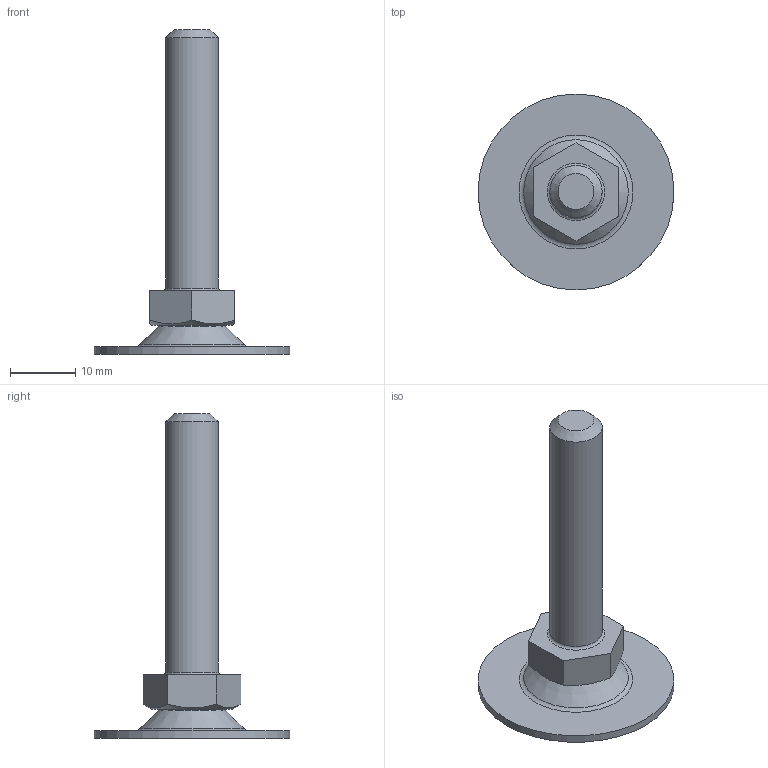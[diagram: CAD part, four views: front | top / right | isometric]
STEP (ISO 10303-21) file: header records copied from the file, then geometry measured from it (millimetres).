
FILE_DESCRIPTION(('STEP AP203'), '1');
FILE_NAME('A00050.1030816', '', ('UNSPECIFIED'), ('UNSPECIFIED'), 'C3D Converter', 'C3D Toolkit', '');
FILE_SCHEMA(('CONFIG_CONTROL_DESIGN'));
Length unit declared in the file: millimetre
Products named in the file (4): A00050.1030840; A00050.1030
Assembly tree (3 placements, depth 2):
  A00050.1030840
    A00050.1030
    (unnamed)
    (unnamed)
Bounding box: 30 x 30 x 49.78 mm (x, y, z)
Volume: 3712.5 mm3; surface area: 3551.6 mm2
Topology: 3 solids, 3 shells, 58 faces, 130 edges, 82 vertices
Faces by surface type: plane 28, torus 8, bspline 8, cone 7, cylinder 6, sphere 1
Full cylindrical faces by diameter (mm): 3.3 x1, 4 x1, 4.5 x1, 8 x2, 30 x1
Entity records: 2171 total; most frequent: CARTESIAN_POINT 784, DIRECTION 242, ORIENTED_EDGE 214, EDGE_CURVE 107, AXIS2_PLACEMENT_3D 95, EDGE_LOOP 86, VERTEX_POINT 81, ADVANCED_FACE 58
